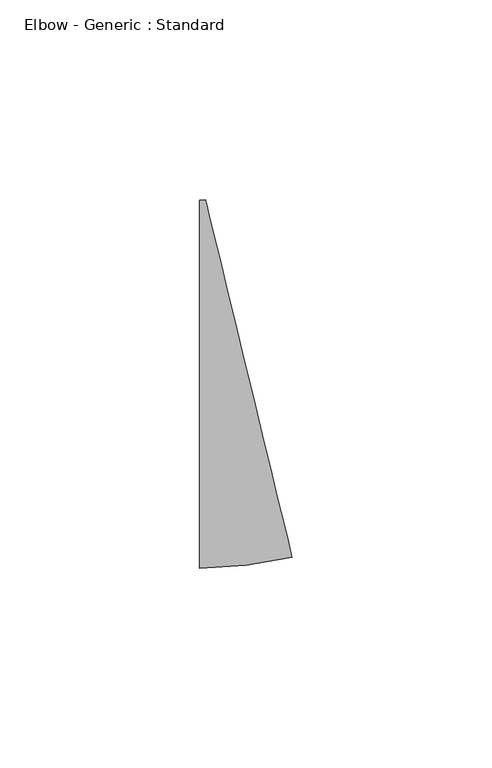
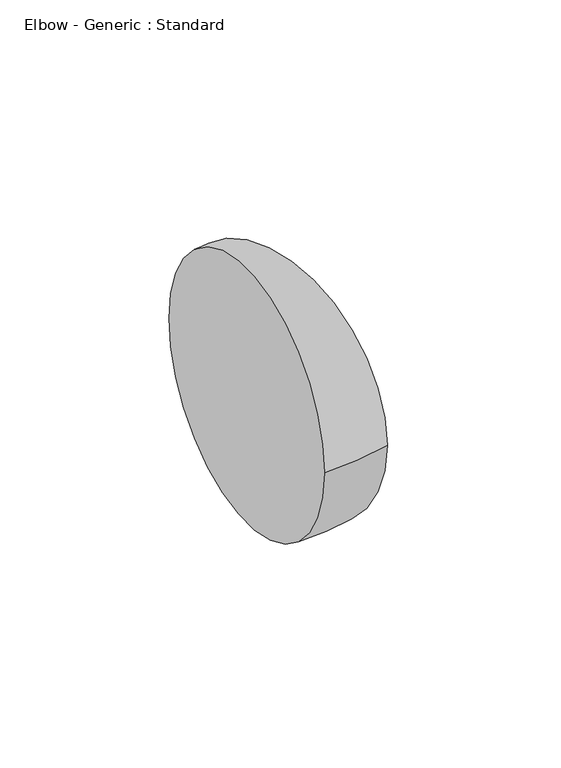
"""IFC4 building model written with IfcOpenShell, lengths in millimetres: pipe fitting geometry, Elbow - Generic : Standard."""

from ifc_helpers import new_model, si_unit, point, frame, origin, place, context, project, spatial, circle_curve, ellipse_curve, trimmed, source, transform, mapped, element, save
from ifc_brep_helpers import plane_surface, revolved_surface, advanced_brep


def elbow_generic_standard_f62a786a(model_context):
    return source(origin(), model_context, "Body", "AdvancedBrep", [
        advanced_brep(
        [(-6.2556798, -46.0375, 0.0), (-6.2556798, 46.0375, 0.0), (16.9200448, -43.2700476, 0.0), (-4.7604718, 46.2160453, 0.0)],
        [
            (0, 1, circle_curve(frame((-6.2556798, 0.0, 0.0), z_axis=(-1.0, 0.0, 0.0), x_axis=(0.0, 1.0, 0.0)), 46.0375)),
            (1, 0, circle_curve(frame((-6.2556798, 0.0, 0.0), z_axis=(-1.0, 0.0, 0.0), x_axis=(0.0, 1.0, 0.0)), 46.0375)),
            (2, 3, circle_curve(frame((6.0797865, 1.4729989, 0.0), z_axis=(0.9718826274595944, 0.23546583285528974, 0.0), x_axis=(-0.23546583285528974, 0.9718826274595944, 0.0)), 46.0375)),
            (3, 2, circle_curve(frame((6.0797865, 1.4729989, 0.0), z_axis=(0.9718826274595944, 0.23546583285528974, 0.0), x_axis=(-0.23546583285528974, 0.9718826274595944, 0.0)), 46.0375)),
            (3, 1, circle_curve(frame((-6.2556798, 52.3875, 0.0), z_axis=(0.0, 0.0, -1.0), x_axis=(0.0, -1.0, 0.0)), 6.35)),
            (0, 2, circle_curve(frame((-6.2556798, 52.3875, 0.0), z_axis=(0.0, 0.0, 1.0), x_axis=(0.0, -1.0, 0.0)), 98.425)),
        ],
        [
            plane_surface(frame((-6.2556798, 0.0, 0.0), z_axis=(-1.0, 0.0, 0.0), x_axis=(0.0, 0.0, 1.0))),
            plane_surface(frame((6.0797865, 1.4729989, 0.0), z_axis=(0.9718826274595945, 0.23546583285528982, 0.0), x_axis=(0.0, 0.0, 1.0))),
            revolved_surface(trimmed(ellipse_curve(frame((-6.2556798, 0.0, 0.0), z_axis=(-1.0, 0.0, 0.0), x_axis=(0.0, 1.0, 0.0)), 46.0375, 46.0375), [point((-6.2556798, -46.0375, 0.0))], [point((-6.2556798, 46.0375, 0.0))], True, "CARTESIAN"), (-6.2556798, 52.3875, 0.0), (0.0, 0.0, 1.0)),
            revolved_surface(trimmed(ellipse_curve(frame((-6.2556798, 0.0, 0.0), z_axis=(-1.0, 0.0, 0.0), x_axis=(0.0, 1.0, 0.0)), 46.0375, 46.0375), [point((-6.2556798, 46.0375, 0.0))], [point((-6.2556798, -46.0375, 0.0))], True, "CARTESIAN"), (-6.2556798, 52.3875, 0.0), (0.0, 0.0, 1.0)),
        ],
        [
            (0, [[1, 2]]),
            (1, [[3, 4]]),
            (2, [[5, -1, 6, -4]]),
            (3, [[-6, -2, -5, -3]]),
        ],
    ),
    ])


if __name__ == "__main__":
    model = new_model("IFC4")
    model_context = context("Model", 3, world=origin())
    ifc_project = project(units=[si_unit("LENGTHUNIT", "METRE", prefix="MILLI")], contexts=[model_context])
    site = spatial("IfcSite", under=ifc_project)
    building = spatial("IfcBuilding", under=site)
    placement = place(None, origin())
    elbow_generic_standard_shape = elbow_generic_standard_f62a786a(model_context)
    element("IfcPipeFitting", 1, ObjectType="Elbow - Generic : Standard", at=placement, inside=building, context=model_context, shape_type="MappedRepresentation", body=[
        mapped(elbow_generic_standard_shape, transform((0.0, 0.0, 0.0), x_axis=(1.0, 0.0, 0.0), y_axis=(0.0, 1.0, 0.0), z_axis=(0.0, 0.0, 1.0))),
    ])
    save(model, "model.ifc")
